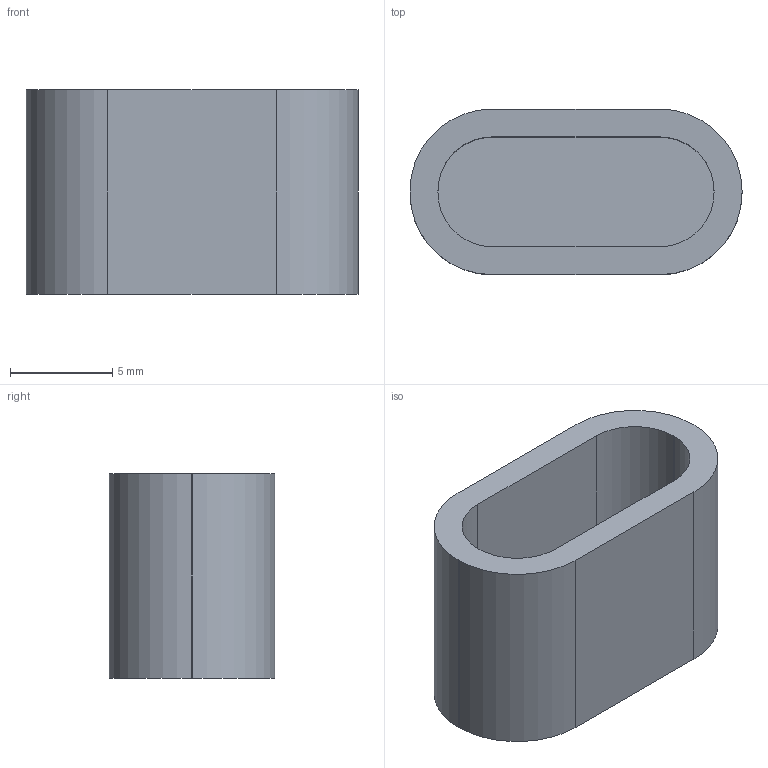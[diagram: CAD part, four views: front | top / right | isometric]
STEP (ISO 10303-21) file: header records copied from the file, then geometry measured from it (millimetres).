
FILE_DESCRIPTION(/* description */ ('STEP AP242 Edition 2','CAx-IF Rec.Pracs.---Representation and Presentation of Product Manufacturing Information (PMI)---4.0---2014-10-13','CAx-IF Rec.Pracs.---3D Tessellated Geometry---0.4---2014-09-14','2;1','CAx-IF Rec.Pracs.---User Defined Attributes---1.5---2016-08-15'),/* implementation_level */ '2;1');
FILE_NAME(/* name */ 'Assem2h - ZIPPY Flightmax 2100mAh 3S1P 30C LiFePo4 Pack v5.step[3]',/* time_stamp */ '2025-12-01T14:50:39Z',/* author */ (''),/* organization */ (''),/* preprocessor_version */ 'ST-DEVELOPER v20',/* originating_system */ 'ONSHAPE BY PTC INC, 1.207',/* authorisation */ ' ');
FILE_SCHEMA (('AP242_MANAGED_MODEL_BASED_3D_ENGINEERING_MIM_LF { 1 0 10303 442 3 1 4 }'));
Length unit declared in the file: metre
Products named in the file (1): ZIPPY Flightmax 2100mAh 3S1P 30C LiFePo4 Pack v5.step[3]
Bounding box: 16.22 x 8.08 x 10 mm (x, y, z)
Volume: 643.2 mm3; surface area: 917.3 mm2
Topology: 1 solids, 1 shells, 19 faces, 48 edges, 32 vertices
Faces by surface type: plane 11, cylinder 8
Entity records: 600 total; most frequent: DIRECTION 104, CARTESIAN_POINT 100, ORIENTED_EDGE 96, EDGE_CURVE 48, AXIS2_PLACEMENT_3D 36, LINE 32, VECTOR 32, VERTEX_POINT 32
